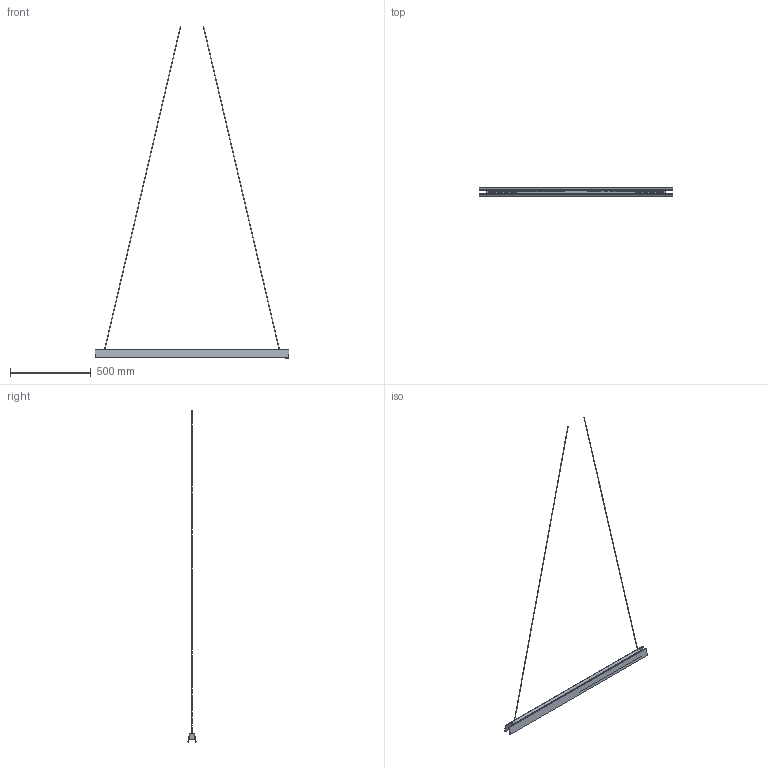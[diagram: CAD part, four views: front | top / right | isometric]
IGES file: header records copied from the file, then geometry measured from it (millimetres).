
Global section: file name: /Users/064_p/Desktop/3d data_02/ILKW_TRYANGLE120_B_Pendant_3D.igs; native system: Rhinoceros ( Jul  7 2025 ); preprocessor: Trout Lake IGES 012 Jul  7 2025; date: 260828.090113; units: millimetre
Bounding box: 1200 x 49.84 x 2054.48 mm (x, y, z)
Surface area: 454808.4 mm2 (no closed solid volume)
Topology: 0 solids, 0 shells, 26 faces, 108 edges, 108 vertices
Faces by surface type: bspline 26
